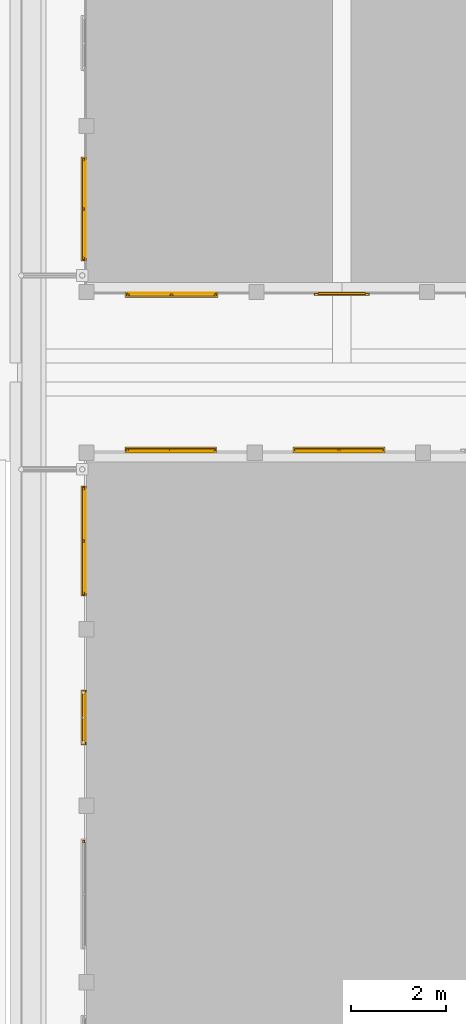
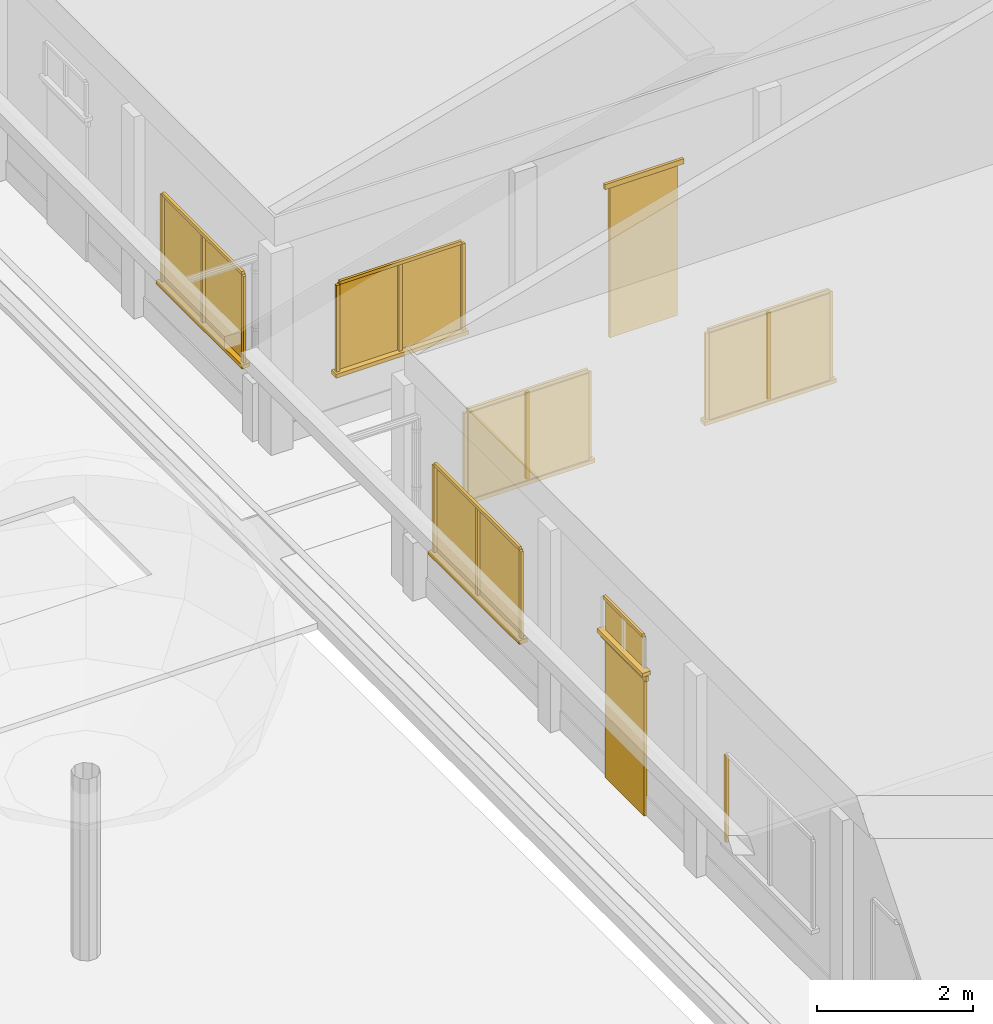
# One storey, part 47 of 177: 34 windows, 4 doors.
"""IFC4 building model written with IfcOpenShell, lengths in metres."""

from ifc_helpers import new_model, si_unit, origin, origin_with_axes, place, context, subcontext, project, spatial, triangles, element, save


model = new_model("IFC4")

# Units and contexts
model_context = context("Model", 3, precision=1e-05, world=origin_with_axes())
body_context = subcontext(model_context, "Body", "Model", "MODEL_VIEW")
ifc_project = project(units=[si_unit("LENGTHUNIT", "METRE"), si_unit("AREAUNIT", "SQUARE_METRE"), si_unit("VOLUMEUNIT", "CUBIC_METRE"), si_unit("PLANEANGLEUNIT", "RADIAN")], contexts=[model_context])

# Site, building, storey
site_placement = place(None, origin_with_axes())
site = spatial("IfcSite", under=ifc_project, at=site_placement, Name="Predio Los Mangos - Morales, San Martín", CompositionType="ELEMENT")
building_placement = place(site_placement, origin())
building = spatial("IfcBuilding", under=site, at=building_placement, Name="Hogar de Refugio Temporal", CompositionType="ELEMENT")
storey_placement = place(building_placement, origin())
storey = spatial("IfcBuildingStorey", under=building, at=storey_placement, Name="NIVEL 1 (NPT +0.00)", CompositionType="ELEMENT", Elevation=0.0)

# Windows
window_1_placement = place(storey_placement, origin())
element("IfcWindow", 1, at=window_1_placement, inside=storey, Name="E-01_vg0_vid", ObjectType="Ventana", PredefinedType="WINDOW", context=body_context, shape_type="Tessellation", body=[
    triangles([(14.69, 48.72, 1.05), (16.47, 48.72, 1.05), (16.47, 48.74, 1.05), (14.69, 48.74, 1.05), (14.69, 48.72, 2.4), (16.47, 48.72, 2.4), (16.47, 48.74, 2.4), (14.69, 48.74, 2.4)], [[1, 4, 3], [1, 3, 2], [5, 6, 7], [5, 7, 8], [1, 2, 6], [1, 6, 5], [2, 3, 7], [2, 7, 6], [3, 4, 8], [3, 8, 7], [4, 1, 5], [4, 5, 8]]),
])
window_2_placement = place(storey_placement, origin())
element("IfcWindow", 2, at=window_2_placement, inside=storey, Name="E-01_vg0_m", ObjectType="Ventana", PredefinedType="WINDOW", context=body_context, shape_type="Tessellation", body=[
    triangles([(14.64, 48.74, 1.05), (14.69, 48.74, 1.05), (14.69, 48.78, 1.05), (14.64, 48.78, 1.05), (14.64, 48.74, 2.4), (14.69, 48.74, 2.4), (14.69, 48.78, 2.4), (14.64, 48.78, 2.4)], [[1, 4, 3], [1, 3, 2], [5, 6, 7], [5, 7, 8], [1, 2, 6], [1, 6, 5], [2, 3, 7], [2, 7, 6], [3, 4, 8], [3, 8, 7], [4, 1, 5], [4, 5, 8]]),
])
window_3_placement = place(storey_placement, origin())
element("IfcWindow", 3, at=window_3_placement, inside=storey, Name="E-01_vg0_m", ObjectType="Ventana", PredefinedType="WINDOW", context=body_context, shape_type="Tessellation", body=[
    triangles([(16.47, 48.74, 1.05), (16.52, 48.74, 1.05), (16.52, 48.78, 1.05), (16.47, 48.78, 1.05), (16.47, 48.74, 2.4), (16.52, 48.74, 2.4), (16.52, 48.78, 2.4), (16.47, 48.78, 2.4)], [[1, 4, 3], [1, 3, 2], [5, 6, 7], [5, 7, 8], [1, 2, 6], [1, 6, 5], [2, 3, 7], [2, 7, 6], [3, 4, 8], [3, 8, 7], [4, 1, 5], [4, 5, 8]]),
])
window_4_placement = place(storey_placement, origin())
element("IfcWindow", 4, at=window_4_placement, inside=storey, Name="E-01_vg0_m", ObjectType="Ventana", PredefinedType="WINDOW", context=body_context, shape_type="Tessellation", body=[
    triangles([(14.69, 48.74, 2.4), (16.47, 48.74, 2.4), (16.47, 48.78, 2.4), (14.69, 48.78, 2.4), (14.69, 48.74, 2.45), (16.47, 48.74, 2.45), (16.47, 48.78, 2.45), (14.69, 48.78, 2.45)], [[1, 4, 3], [1, 3, 2], [5, 6, 7], [5, 7, 8], [1, 2, 6], [1, 6, 5], [2, 3, 7], [2, 7, 6], [3, 4, 8], [3, 8, 7], [4, 1, 5], [4, 5, 8]]),
])
window_5_placement = place(storey_placement, origin())
element("IfcWindow", 5, at=window_5_placement, inside=storey, Name="E-01_vg0_m", ObjectType="Ventana", PredefinedType="WINDOW", context=body_context, shape_type="Tessellation", body=[
    triangles([(15.555, 48.74, 1.05), (15.605, 48.74, 1.05), (15.605, 48.78, 1.05), (15.555, 48.78, 1.05), (15.555, 48.74, 2.4), (15.605, 48.74, 2.4), (15.605, 48.78, 2.4), (15.555, 48.78, 2.4)], [[1, 4, 3], [1, 3, 2], [5, 6, 7], [5, 7, 8], [1, 2, 6], [1, 6, 5], [2, 3, 7], [2, 7, 6], [3, 4, 8], [3, 8, 7], [4, 1, 5], [4, 5, 8]]),
])
window_6_placement = place(storey_placement, origin())
element("IfcWindow", 6, at=window_6_placement, inside=storey, Name="E-01_vg0_alf", ObjectType="Ventana", PredefinedType="WINDOW", context=body_context, shape_type="Tessellation", body=[
    triangles([(14.61, 48.7, 0.99), (16.55, 48.7, 0.99), (16.55, 48.82, 0.99), (14.61, 48.82, 0.99), (14.61, 48.7, 1.05), (16.55, 48.7, 1.05), (16.55, 48.82, 1.05), (14.61, 48.82, 1.05)], [[1, 4, 3], [1, 3, 2], [5, 6, 7], [5, 7, 8], [1, 2, 6], [1, 6, 5], [2, 3, 7], [2, 7, 6], [3, 4, 8], [3, 8, 7], [4, 1, 5], [4, 5, 8]]),
])
window_7_placement = place(storey_placement, origin())
element("IfcWindow", 7, at=window_7_placement, inside=storey, Name="E-01_vg1_vid", ObjectType="Ventana", PredefinedType="WINDOW", context=body_context, shape_type="Tessellation", body=[
    triangles([(18.25, 48.72, 1.05), (20.03, 48.72, 1.05), (20.03, 48.74, 1.05), (18.25, 48.74, 1.05), (18.25, 48.72, 2.4), (20.03, 48.72, 2.4), (20.03, 48.74, 2.4), (18.25, 48.74, 2.4)], [[1, 4, 3], [1, 3, 2], [5, 6, 7], [5, 7, 8], [1, 2, 6], [1, 6, 5], [2, 3, 7], [2, 7, 6], [3, 4, 8], [3, 8, 7], [4, 1, 5], [4, 5, 8]]),
])
window_8_placement = place(storey_placement, origin())
element("IfcWindow", 8, at=window_8_placement, inside=storey, Name="E-01_vg1_m", ObjectType="Ventana", PredefinedType="WINDOW", context=body_context, shape_type="Tessellation", body=[
    triangles([(18.2, 48.74, 1.05), (18.25, 48.74, 1.05), (18.25, 48.78, 1.05), (18.2, 48.78, 1.05), (18.2, 48.74, 2.4), (18.25, 48.74, 2.4), (18.25, 48.78, 2.4), (18.2, 48.78, 2.4)], [[1, 4, 3], [1, 3, 2], [5, 6, 7], [5, 7, 8], [1, 2, 6], [1, 6, 5], [2, 3, 7], [2, 7, 6], [3, 4, 8], [3, 8, 7], [4, 1, 5], [4, 5, 8]]),
])
window_9_placement = place(storey_placement, origin())
element("IfcWindow", 9, at=window_9_placement, inside=storey, Name="E-01_vg1_m", ObjectType="Ventana", PredefinedType="WINDOW", context=body_context, shape_type="Tessellation", body=[
    triangles([(20.03, 48.74, 1.05), (20.08, 48.74, 1.05), (20.08, 48.78, 1.05), (20.03, 48.78, 1.05), (20.03, 48.74, 2.4), (20.08, 48.74, 2.4), (20.08, 48.78, 2.4), (20.03, 48.78, 2.4)], [[1, 4, 3], [1, 3, 2], [5, 6, 7], [5, 7, 8], [1, 2, 6], [1, 6, 5], [2, 3, 7], [2, 7, 6], [3, 4, 8], [3, 8, 7], [4, 1, 5], [4, 5, 8]]),
])
window_10_placement = place(storey_placement, origin())
element("IfcWindow", 10, at=window_10_placement, inside=storey, Name="E-01_vg1_m", ObjectType="Ventana", PredefinedType="WINDOW", context=body_context, shape_type="Tessellation", body=[
    triangles([(18.25, 48.74, 2.4), (20.03, 48.74, 2.4), (20.03, 48.78, 2.4), (18.25, 48.78, 2.4), (18.25, 48.74, 2.45), (20.03, 48.74, 2.45), (20.03, 48.78, 2.45), (18.25, 48.78, 2.45)], [[1, 4, 3], [1, 3, 2], [5, 6, 7], [5, 7, 8], [1, 2, 6], [1, 6, 5], [2, 3, 7], [2, 7, 6], [3, 4, 8], [3, 8, 7], [4, 1, 5], [4, 5, 8]]),
])
window_11_placement = place(storey_placement, origin())
element("IfcWindow", 11, at=window_11_placement, inside=storey, Name="E-01_vg1_m", ObjectType="Ventana", PredefinedType="WINDOW", context=body_context, shape_type="Tessellation", body=[
    triangles([(19.115, 48.74, 1.05), (19.165, 48.74, 1.05), (19.165, 48.78, 1.05), (19.115, 48.78, 1.05), (19.115, 48.74, 2.4), (19.165, 48.74, 2.4), (19.165, 48.78, 2.4), (19.115, 48.78, 2.4)], [[1, 4, 3], [1, 3, 2], [5, 6, 7], [5, 7, 8], [1, 2, 6], [1, 6, 5], [2, 3, 7], [2, 7, 6], [3, 4, 8], [3, 8, 7], [4, 1, 5], [4, 5, 8]]),
])
window_12_placement = place(storey_placement, origin())
element("IfcWindow", 12, at=window_12_placement, inside=storey, Name="E-01_vg1_alf", ObjectType="Ventana", PredefinedType="WINDOW", context=body_context, shape_type="Tessellation", body=[
    triangles([(18.17, 48.7, 0.99), (20.11, 48.7, 0.99), (20.11, 48.82, 0.99), (18.17, 48.82, 0.99), (18.17, 48.7, 1.05), (20.11, 48.7, 1.05), (20.11, 48.82, 1.05), (18.17, 48.82, 1.05)], [[1, 4, 3], [1, 3, 2], [5, 6, 7], [5, 7, 8], [1, 2, 6], [1, 6, 5], [2, 3, 7], [2, 7, 6], [3, 4, 8], [3, 8, 7], [4, 1, 5], [4, 5, 8]]),
])
window_13_placement = place(storey_placement, origin())
element("IfcWindow", 13, at=window_13_placement, inside=storey, Name="E-01_v3_m", ObjectType="Ventana", PredefinedType="WINDOW", context=body_context, shape_type="Tessellation", body=[
    triangles([(13.72, 40.4493, 1.05), (13.76, 40.4493, 1.05), (13.76, 40.4993, 1.05), (13.72, 40.4993, 1.05), (13.72, 40.4493, 2.4), (13.76, 40.4493, 2.4), (13.76, 40.4993, 2.4), (13.72, 40.4993, 2.4)], [[1, 4, 3], [1, 3, 2], [5, 6, 7], [5, 7, 8], [1, 2, 6], [1, 6, 5], [2, 3, 7], [2, 7, 6], [3, 4, 8], [3, 8, 7], [4, 1, 5], [4, 5, 8]]),
])

# Doors
door_1_placement = place(storey_placement, origin())
element("IfcDoor", 14, at=door_1_placement, inside=storey, Name="E-01_p4", ObjectType="Puerta", PredefinedType="DOOR", context=body_context, shape_type="Tessellation", body=[
    triangles([(13.75, 42.6, 0.15), (13.79, 42.6, 0.15), (13.79, 43.6, 0.15), (13.75, 43.6, 0.15), (13.75, 42.6, 2.3), (13.79, 42.6, 2.3), (13.79, 43.6, 2.3), (13.75, 43.6, 2.3)], [[1, 4, 3], [1, 3, 2], [5, 6, 7], [5, 7, 8], [1, 2, 6], [1, 6, 5], [2, 3, 7], [2, 7, 6], [3, 4, 8], [3, 8, 7], [4, 1, 5], [4, 5, 8]]),
])
door_2_placement = place(storey_placement, origin())
element("IfcDoor", 15, at=door_2_placement, inside=storey, Name="E-01_p4_marco", ObjectType="Puerta", PredefinedType="DOOR", context=body_context, shape_type="Tessellation", body=[
    triangles([(13.73, 42.52, 2.3), (13.77, 42.52, 2.3), (13.77, 43.68, 2.3), (13.73, 43.68, 2.3), (13.73, 42.52, 2.38), (13.77, 42.52, 2.38), (13.77, 43.68, 2.38), (13.73, 43.68, 2.38)], [[1, 4, 3], [1, 3, 2], [5, 6, 7], [5, 7, 8], [1, 2, 6], [1, 6, 5], [2, 3, 7], [2, 7, 6], [3, 4, 8], [3, 8, 7], [4, 1, 5], [4, 5, 8]]),
])

# Windows
window_14_placement = place(storey_placement, origin())
element("IfcWindow", 16, at=window_14_placement, inside=storey, Name="E-01_vt4_vid", ObjectType="Ventana", PredefinedType="WINDOW", context=body_context, shape_type="Tessellation", body=[
    triangles([(13.76, 42.6, 2.45), (13.78, 42.6, 2.45), (13.78, 43.6, 2.45), (13.76, 43.6, 2.45), (13.76, 42.6, 2.95), (13.78, 42.6, 2.95), (13.78, 43.6, 2.95), (13.76, 43.6, 2.95)], [[1, 4, 3], [1, 3, 2], [5, 6, 7], [5, 7, 8], [1, 2, 6], [1, 6, 5], [2, 3, 7], [2, 7, 6], [3, 4, 8], [3, 8, 7], [4, 1, 5], [4, 5, 8]]),
])
window_15_placement = place(storey_placement, origin())
element("IfcWindow", 17, at=window_15_placement, inside=storey, Name="E-01_vt4_m", ObjectType="Ventana", PredefinedType="WINDOW", context=body_context, shape_type="Tessellation", body=[
    triangles([(13.72, 42.6, 2.95), (13.76, 42.6, 2.95), (13.76, 43.6, 2.95), (13.72, 43.6, 2.95), (13.72, 42.6, 3.0), (13.76, 42.6, 3.0), (13.76, 43.6, 3.0), (13.72, 43.6, 3.0)], [[1, 4, 3], [1, 3, 2], [5, 6, 7], [5, 7, 8], [1, 2, 6], [1, 6, 5], [2, 3, 7], [2, 7, 6], [3, 4, 8], [3, 8, 7], [4, 1, 5], [4, 5, 8]]),
])
window_16_placement = place(storey_placement, origin())
element("IfcWindow", 18, at=window_16_placement, inside=storey, Name="E-01_vt4_alf", ObjectType="Ventana", PredefinedType="WINDOW", context=body_context, shape_type="Tessellation", body=[
    triangles([(13.8, 42.52, 2.39), (13.68, 42.52, 2.39), (13.68, 43.68, 2.39), (13.8, 43.68, 2.39), (13.8, 42.52, 2.45), (13.68, 42.52, 2.45), (13.68, 43.68, 2.45), (13.8, 43.68, 2.45)], [[1, 4, 3], [1, 3, 2], [5, 6, 7], [5, 7, 8], [1, 2, 6], [1, 6, 5], [2, 3, 7], [2, 7, 6], [3, 4, 8], [3, 8, 7], [4, 1, 5], [4, 5, 8]]),
])
window_17_placement = place(storey_placement, origin())
element("IfcWindow", 19, at=window_17_placement, inside=storey, Name="E-01_v5_vid", ObjectType="Ventana", PredefinedType="WINDOW", context=body_context, shape_type="Tessellation", body=[
    triangles([(13.76, 45.7507, 1.05), (13.78, 45.7507, 1.05), (13.78, 47.916, 1.05), (13.76, 47.916, 1.05), (13.76, 45.7507, 2.4), (13.78, 45.7507, 2.4), (13.78, 47.916, 2.4), (13.76, 47.916, 2.4)], [[1, 4, 3], [1, 3, 2], [5, 6, 7], [5, 7, 8], [1, 2, 6], [1, 6, 5], [2, 3, 7], [2, 7, 6], [3, 4, 8], [3, 8, 7], [4, 1, 5], [4, 5, 8]]),
])
window_18_placement = place(storey_placement, origin())
element("IfcWindow", 20, at=window_18_placement, inside=storey, Name="E-01_v5_m", ObjectType="Ventana", PredefinedType="WINDOW", context=body_context, shape_type="Tessellation", body=[
    triangles([(13.72, 45.7007, 1.05), (13.76, 45.7007, 1.05), (13.76, 45.7507, 1.05), (13.72, 45.7507, 1.05), (13.72, 45.7007, 2.4), (13.76, 45.7007, 2.4), (13.76, 45.7507, 2.4), (13.72, 45.7507, 2.4)], [[1, 4, 3], [1, 3, 2], [5, 6, 7], [5, 7, 8], [1, 2, 6], [1, 6, 5], [2, 3, 7], [2, 7, 6], [3, 4, 8], [3, 8, 7], [4, 1, 5], [4, 5, 8]]),
])
window_19_placement = place(storey_placement, origin())
element("IfcWindow", 21, at=window_19_placement, inside=storey, Name="E-01_v5_m", ObjectType="Ventana", PredefinedType="WINDOW", context=body_context, shape_type="Tessellation", body=[
    triangles([(13.72, 47.916, 1.05), (13.76, 47.916, 1.05), (13.76, 47.966, 1.05), (13.72, 47.966, 1.05), (13.72, 47.916, 2.4), (13.76, 47.916, 2.4), (13.76, 47.966, 2.4), (13.72, 47.966, 2.4)], [[1, 4, 3], [1, 3, 2], [5, 6, 7], [5, 7, 8], [1, 2, 6], [1, 6, 5], [2, 3, 7], [2, 7, 6], [3, 4, 8], [3, 8, 7], [4, 1, 5], [4, 5, 8]]),
])
window_20_placement = place(storey_placement, origin())
element("IfcWindow", 22, at=window_20_placement, inside=storey, Name="E-01_v5_m", ObjectType="Ventana", PredefinedType="WINDOW", context=body_context, shape_type="Tessellation", body=[
    triangles([(13.72, 45.7507, 2.4), (13.76, 45.7507, 2.4), (13.76, 47.916, 2.4), (13.72, 47.916, 2.4), (13.72, 45.7507, 2.45), (13.76, 45.7507, 2.45), (13.76, 47.916, 2.45), (13.72, 47.916, 2.45)], [[1, 4, 3], [1, 3, 2], [5, 6, 7], [5, 7, 8], [1, 2, 6], [1, 6, 5], [2, 3, 7], [2, 7, 6], [3, 4, 8], [3, 8, 7], [4, 1, 5], [4, 5, 8]]),
])
window_21_placement = place(storey_placement, origin())
element("IfcWindow", 23, at=window_21_placement, inside=storey, Name="E-01_v5_m", ObjectType="Ventana", PredefinedType="WINDOW", context=body_context, shape_type="Tessellation", body=[
    triangles([(13.72, 46.8083, 1.05), (13.76, 46.8083, 1.05), (13.76, 46.8583, 1.05), (13.72, 46.8583, 1.05), (13.72, 46.8083, 2.4), (13.76, 46.8083, 2.4), (13.76, 46.8583, 2.4), (13.72, 46.8583, 2.4)], [[1, 4, 3], [1, 3, 2], [5, 6, 7], [5, 7, 8], [1, 2, 6], [1, 6, 5], [2, 3, 7], [2, 7, 6], [3, 4, 8], [3, 8, 7], [4, 1, 5], [4, 5, 8]]),
])
window_22_placement = place(storey_placement, origin())
element("IfcWindow", 24, at=window_22_placement, inside=storey, Name="E-01_v5_alf", ObjectType="Ventana", PredefinedType="WINDOW", context=body_context, shape_type="Tessellation", body=[
    triangles([(13.8, 45.6707, 0.99), (13.68, 45.6707, 0.99), (13.68, 47.996, 0.99), (13.8, 47.996, 0.99), (13.8, 45.6707, 1.05), (13.68, 45.6707, 1.05), (13.68, 47.996, 1.05), (13.8, 47.996, 1.05)], [[1, 4, 3], [1, 3, 2], [5, 6, 7], [5, 7, 8], [1, 2, 6], [1, 6, 5], [2, 3, 7], [2, 7, 6], [3, 4, 8], [3, 8, 7], [4, 1, 5], [4, 5, 8]]),
])
window_23_placement = place(storey_placement, origin())
element("IfcWindow", 25, at=window_23_placement, inside=storey, Name="E-04_vg0_vid", ObjectType="Ventana", PredefinedType="WINDOW", context=body_context, shape_type="Tessellation", body=[
    triangles([(14.7, 52.06, 1.05), (16.5, 52.06, 1.05), (16.5, 52.08, 1.05), (14.7, 52.08, 1.05), (14.7, 52.06, 2.4), (16.5, 52.06, 2.4), (16.5, 52.08, 2.4), (14.7, 52.08, 2.4)], [[1, 4, 3], [1, 3, 2], [5, 6, 7], [5, 7, 8], [1, 2, 6], [1, 6, 5], [2, 3, 7], [2, 7, 6], [3, 4, 8], [3, 8, 7], [4, 1, 5], [4, 5, 8]]),
])
window_24_placement = place(storey_placement, origin())
element("IfcWindow", 26, at=window_24_placement, inside=storey, Name="E-04_vg0_m", ObjectType="Ventana", PredefinedType="WINDOW", context=body_context, shape_type="Tessellation", body=[
    triangles([(14.65, 52.02, 1.05), (14.7, 52.02, 1.05), (14.7, 52.06, 1.05), (14.65, 52.06, 1.05), (14.65, 52.02, 2.4), (14.7, 52.02, 2.4), (14.7, 52.06, 2.4), (14.65, 52.06, 2.4)], [[1, 4, 3], [1, 3, 2], [5, 6, 7], [5, 7, 8], [1, 2, 6], [1, 6, 5], [2, 3, 7], [2, 7, 6], [3, 4, 8], [3, 8, 7], [4, 1, 5], [4, 5, 8]]),
])
window_25_placement = place(storey_placement, origin())
element("IfcWindow", 27, at=window_25_placement, inside=storey, Name="E-04_vg0_m", ObjectType="Ventana", PredefinedType="WINDOW", context=body_context, shape_type="Tessellation", body=[
    triangles([(16.5, 52.02, 1.05), (16.55, 52.02, 1.05), (16.55, 52.06, 1.05), (16.5, 52.06, 1.05), (16.5, 52.02, 2.4), (16.55, 52.02, 2.4), (16.55, 52.06, 2.4), (16.5, 52.06, 2.4)], [[1, 4, 3], [1, 3, 2], [5, 6, 7], [5, 7, 8], [1, 2, 6], [1, 6, 5], [2, 3, 7], [2, 7, 6], [3, 4, 8], [3, 8, 7], [4, 1, 5], [4, 5, 8]]),
])
window_26_placement = place(storey_placement, origin())
element("IfcWindow", 28, at=window_26_placement, inside=storey, Name="E-04_vg0_m", ObjectType="Ventana", PredefinedType="WINDOW", context=body_context, shape_type="Tessellation", body=[
    triangles([(14.7, 52.02, 2.4), (16.5, 52.02, 2.4), (16.5, 52.06, 2.4), (14.7, 52.06, 2.4), (14.7, 52.02, 2.45), (16.5, 52.02, 2.45), (16.5, 52.06, 2.45), (14.7, 52.06, 2.45)], [[1, 4, 3], [1, 3, 2], [5, 6, 7], [5, 7, 8], [1, 2, 6], [1, 6, 5], [2, 3, 7], [2, 7, 6], [3, 4, 8], [3, 8, 7], [4, 1, 5], [4, 5, 8]]),
])
window_27_placement = place(storey_placement, origin())
element("IfcWindow", 29, at=window_27_placement, inside=storey, Name="E-04_vg0_m", ObjectType="Ventana", PredefinedType="WINDOW", context=body_context, shape_type="Tessellation", body=[
    triangles([(15.575, 52.02, 1.05), (15.625, 52.02, 1.05), (15.625, 52.06, 1.05), (15.575, 52.06, 1.05), (15.575, 52.02, 2.4), (15.625, 52.02, 2.4), (15.625, 52.06, 2.4), (15.575, 52.06, 2.4)], [[1, 4, 3], [1, 3, 2], [5, 6, 7], [5, 7, 8], [1, 2, 6], [1, 6, 5], [2, 3, 7], [2, 7, 6], [3, 4, 8], [3, 8, 7], [4, 1, 5], [4, 5, 8]]),
])
window_28_placement = place(storey_placement, origin())
element("IfcWindow", 30, at=window_28_placement, inside=storey, Name="E-04_vg0_alf", ObjectType="Ventana", PredefinedType="WINDOW", context=body_context, shape_type="Tessellation", body=[
    triangles([(14.62, 52.1, 0.99), (16.58, 52.1, 0.99), (16.58, 51.98, 0.99), (14.62, 51.98, 0.99), (14.62, 52.1, 1.05), (16.58, 52.1, 1.05), (16.58, 51.98, 1.05), (14.62, 51.98, 1.05)], [[1, 4, 3], [1, 3, 2], [5, 6, 7], [5, 7, 8], [1, 2, 6], [1, 6, 5], [2, 3, 7], [2, 7, 6], [3, 4, 8], [3, 8, 7], [4, 1, 5], [4, 5, 8]]),
])

# Doors
door_3_placement = place(storey_placement, origin())
element("IfcDoor", 31, at=door_3_placement, inside=storey, Name="E-04_pp", ObjectType="Puerta", PredefinedType="DOOR", context=body_context, shape_type="Tessellation", body=[
    triangles([(18.7, 52.05, 0.15), (19.7, 52.05, 0.15), (19.7, 52.09, 0.15), (18.7, 52.09, 0.15), (18.7, 52.05, 2.5), (19.7, 52.05, 2.5), (19.7, 52.09, 2.5), (18.7, 52.09, 2.5)], [[1, 4, 3], [1, 3, 2], [5, 6, 7], [5, 7, 8], [1, 2, 6], [1, 6, 5], [2, 3, 7], [2, 7, 6], [3, 4, 8], [3, 8, 7], [4, 1, 5], [4, 5, 8]]),
])
door_4_placement = place(storey_placement, origin())
element("IfcDoor", 32, at=door_4_placement, inside=storey, Name="E-04_pp_marco", ObjectType="Puerta", PredefinedType="DOOR", context=body_context, shape_type="Tessellation", body=[
    triangles([(18.62, 52.03, 2.5), (19.78, 52.03, 2.5), (19.78, 52.07, 2.5), (18.62, 52.07, 2.5), (18.62, 52.03, 2.58), (19.78, 52.03, 2.58), (19.78, 52.07, 2.58), (18.62, 52.07, 2.58)], [[1, 4, 3], [1, 3, 2], [5, 6, 7], [5, 7, 8], [1, 2, 6], [1, 6, 5], [2, 3, 7], [2, 7, 6], [3, 4, 8], [3, 8, 7], [4, 1, 5], [4, 5, 8]]),
])

# Windows
window_29_placement = place(storey_placement, origin())
element("IfcWindow", 33, at=window_29_placement, inside=storey, Name="E-04_v0_vid", ObjectType="Ventana", PredefinedType="WINDOW", context=body_context, shape_type="Tessellation", body=[
    triangles([(13.76, 52.8371, 1.05), (13.78, 52.8371, 1.05), (13.78, 54.8729, 1.05), (13.76, 54.8729, 1.05), (13.76, 52.8371, 2.4), (13.78, 52.8371, 2.4), (13.78, 54.8729, 2.4), (13.76, 54.8729, 2.4)], [[1, 4, 3], [1, 3, 2], [5, 6, 7], [5, 7, 8], [1, 2, 6], [1, 6, 5], [2, 3, 7], [2, 7, 6], [3, 4, 8], [3, 8, 7], [4, 1, 5], [4, 5, 8]]),
])
window_30_placement = place(storey_placement, origin())
element("IfcWindow", 34, at=window_30_placement, inside=storey, Name="E-04_v0_m", ObjectType="Ventana", PredefinedType="WINDOW", context=body_context, shape_type="Tessellation", body=[
    triangles([(13.72, 52.7871, 1.05), (13.76, 52.7871, 1.05), (13.76, 52.8371, 1.05), (13.72, 52.8371, 1.05), (13.72, 52.7871, 2.4), (13.76, 52.7871, 2.4), (13.76, 52.8371, 2.4), (13.72, 52.8371, 2.4)], [[1, 4, 3], [1, 3, 2], [5, 6, 7], [5, 7, 8], [1, 2, 6], [1, 6, 5], [2, 3, 7], [2, 7, 6], [3, 4, 8], [3, 8, 7], [4, 1, 5], [4, 5, 8]]),
])
window_31_placement = place(storey_placement, origin())
element("IfcWindow", 35, at=window_31_placement, inside=storey, Name="E-04_v0_m", ObjectType="Ventana", PredefinedType="WINDOW", context=body_context, shape_type="Tessellation", body=[
    triangles([(13.72, 54.8729, 1.05), (13.76, 54.8729, 1.05), (13.76, 54.9229, 1.05), (13.72, 54.9229, 1.05), (13.72, 54.8729, 2.4), (13.76, 54.8729, 2.4), (13.76, 54.9229, 2.4), (13.72, 54.9229, 2.4)], [[1, 4, 3], [1, 3, 2], [5, 6, 7], [5, 7, 8], [1, 2, 6], [1, 6, 5], [2, 3, 7], [2, 7, 6], [3, 4, 8], [3, 8, 7], [4, 1, 5], [4, 5, 8]]),
])
window_32_placement = place(storey_placement, origin())
element("IfcWindow", 36, at=window_32_placement, inside=storey, Name="E-04_v0_m", ObjectType="Ventana", PredefinedType="WINDOW", context=body_context, shape_type="Tessellation", body=[
    triangles([(13.72, 52.8371, 2.4), (13.76, 52.8371, 2.4), (13.76, 54.8729, 2.4), (13.72, 54.8729, 2.4), (13.72, 52.8371, 2.45), (13.76, 52.8371, 2.45), (13.76, 54.8729, 2.45), (13.72, 54.8729, 2.45)], [[1, 4, 3], [1, 3, 2], [5, 6, 7], [5, 7, 8], [1, 2, 6], [1, 6, 5], [2, 3, 7], [2, 7, 6], [3, 4, 8], [3, 8, 7], [4, 1, 5], [4, 5, 8]]),
])
window_33_placement = place(storey_placement, origin())
element("IfcWindow", 37, at=window_33_placement, inside=storey, Name="E-04_v0_m", ObjectType="Ventana", PredefinedType="WINDOW", context=body_context, shape_type="Tessellation", body=[
    triangles([(13.72, 53.83, 1.05), (13.76, 53.83, 1.05), (13.76, 53.88, 1.05), (13.72, 53.88, 1.05), (13.72, 53.83, 2.4), (13.76, 53.83, 2.4), (13.76, 53.88, 2.4), (13.72, 53.88, 2.4)], [[1, 4, 3], [1, 3, 2], [5, 6, 7], [5, 7, 8], [1, 2, 6], [1, 6, 5], [2, 3, 7], [2, 7, 6], [3, 4, 8], [3, 8, 7], [4, 1, 5], [4, 5, 8]]),
])
window_34_placement = place(storey_placement, origin())
element("IfcWindow", 38, at=window_34_placement, inside=storey, Name="E-04_v0_alf", ObjectType="Ventana", PredefinedType="WINDOW", context=body_context, shape_type="Tessellation", body=[
    triangles([(13.8, 52.7571, 0.99), (13.68, 52.7571, 0.99), (13.68, 54.9529, 0.99), (13.8, 54.9529, 0.99), (13.8, 52.7571, 1.05), (13.68, 52.7571, 1.05), (13.68, 54.9529, 1.05), (13.8, 54.9529, 1.05)], [[1, 4, 3], [1, 3, 2], [5, 6, 7], [5, 7, 8], [1, 2, 6], [1, 6, 5], [2, 3, 7], [2, 7, 6], [3, 4, 8], [3, 8, 7], [4, 1, 5], [4, 5, 8]]),
])

save(model, "model.ifc")
